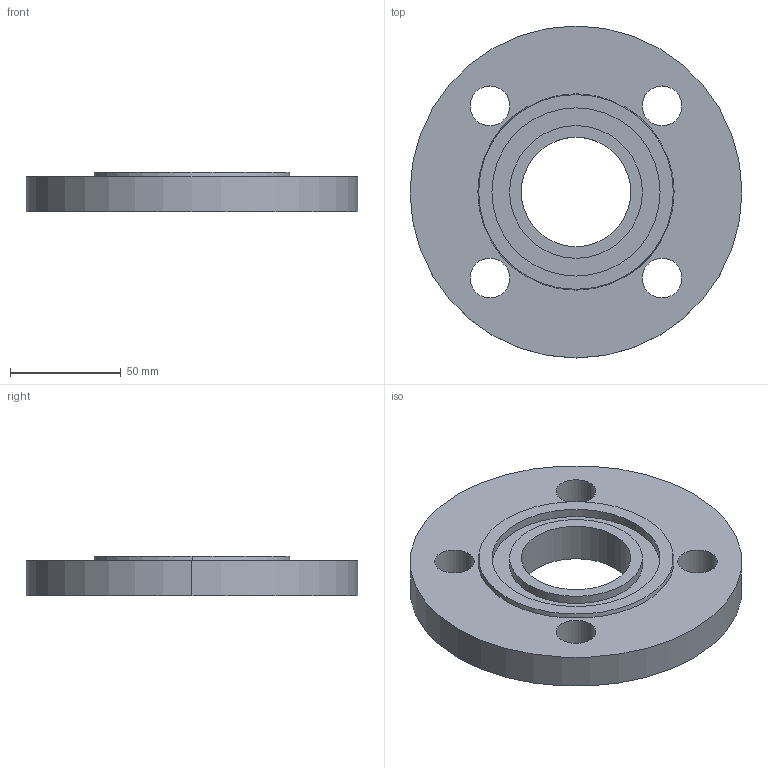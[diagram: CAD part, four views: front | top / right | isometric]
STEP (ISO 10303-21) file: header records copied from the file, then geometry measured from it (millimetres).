
FILE_DESCRIPTION (( 'STEP AP214' ), '1' );
FILE_NAME ('PN40 DN40 Type 01 - Type D Face.STEP', '2018-12-30T02:33:14', ( '' ), ( '' ), 'SwSTEP 2.0', 'SolidWorks 2019', '' );
FILE_SCHEMA (( 'AUTOMOTIVE_DESIGN' ));
Length unit declared in the file: millimetre
Products named in the file (1): PN40 DN40 Type 01 - Type D Face
Bounding box: 150 x 150 x 18 mm (x, y, z)
Volume: 237243.6 mm3; surface area: 45591.3 mm2
Topology: 1 solids, 1 shells, 23 faces, 54 edges, 36 vertices
Faces by surface type: cylinder 16, plane 5, cone 2
Entity records: 738 total; most frequent: DIRECTION 138, CARTESIAN_POINT 114, ORIENTED_EDGE 108, AXIS2_PLACEMENT_3D 60, EDGE_CURVE 54, CIRCLE 36, VERTEX_POINT 36, EDGE_LOOP 36
